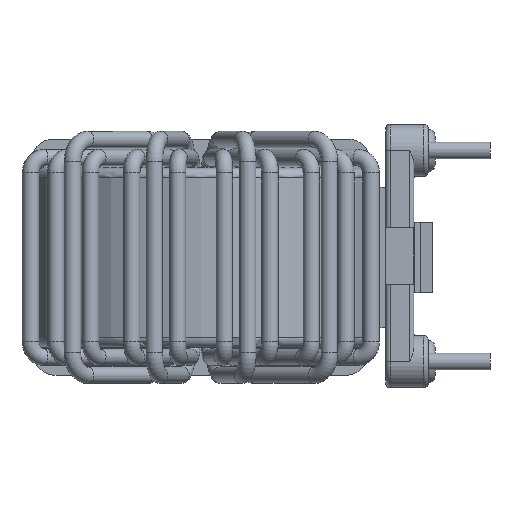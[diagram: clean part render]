
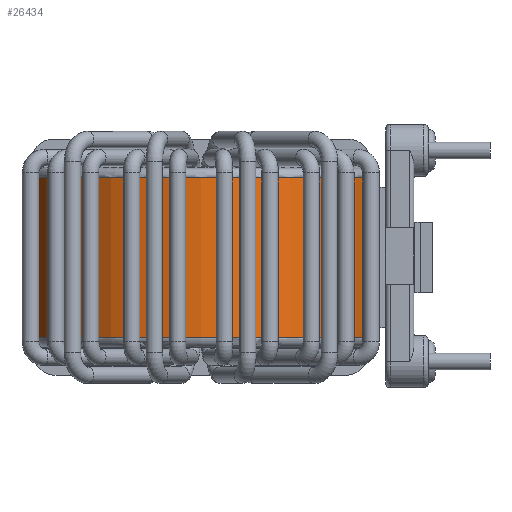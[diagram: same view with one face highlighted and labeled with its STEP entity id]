
A CAD part, left-side view. The second image highlights one B-rep face of the part: STEP entity #26434.
In plain terms, the highlighted cylindrical face has radius 12.7 mm (diameter 25.4 mm), a full revolution.
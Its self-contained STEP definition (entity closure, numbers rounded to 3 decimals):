
#1052=FACE_BOUND('',#4097,.T.);
#1053=FACE_BOUND('',#4098,.T.);
#2666=FACE_OUTER_BOUND('',#4096,.T.);
#4096=EDGE_LOOP('',(#18595,#18596,#18597,#18598,#18599));
#4097=EDGE_LOOP('',(#18600,#18601,#18602,#18603));
#4098=EDGE_LOOP('',(#18604,#18605,#18606,#18607));
#5490=LINE('',#39161,#7453);
#5499=LINE('',#39181,#7462);
#5508=LINE('',#39201,#7471);
#5515=LINE('',#39217,#7478);
#5516=LINE('',#39232,#7479);
#7453=VECTOR('',#31827,10.);
#7462=VECTOR('',#31844,10.);
#7471=VECTOR('',#31861,10.);
#7478=VECTOR('',#31876,10.);
#7479=VECTOR('',#31895,12.7);
#9875=CIRCLE('',#28578,12.7);
#9881=CIRCLE('',#28584,12.7);
#9882=CIRCLE('',#28586,12.7);
#9883=CIRCLE('',#28587,12.7);
#9884=CIRCLE('',#28588,12.7);
#9885=CIRCLE('',#28589,12.7);
#9886=CIRCLE('',#28590,12.7);
#10830=VERTEX_POINT('',#39154);
#10833=VERTEX_POINT('',#39159);
#10837=VERTEX_POINT('',#39174);
#10840=VERTEX_POINT('',#39179);
#10844=VERTEX_POINT('',#39194);
#10847=VERTEX_POINT('',#39199);
#10851=VERTEX_POINT('',#39213);
#10852=VERTEX_POINT('',#39215);
#10853=VERTEX_POINT('',#39219);
#10854=VERTEX_POINT('',#39220);
#10857=VERTEX_POINT('',#39231);
#13712=EDGE_CURVE('',#10833,#10830,#5490,.T.);
#13723=EDGE_CURVE('',#10840,#10837,#5499,.T.);
#13734=EDGE_CURVE('',#10847,#10844,#5508,.T.);
#13743=EDGE_CURVE('',#10852,#10851,#5515,.T.);
#13744=EDGE_CURVE('',#10853,#10854,#9875,.T.);
#13750=EDGE_CURVE('',#10854,#10853,#9881,.T.);
#13751=EDGE_CURVE('',#10853,#10857,#5516,.T.);
#13752=EDGE_CURVE('',#10857,#10857,#9882,.T.);
#13753=EDGE_CURVE('',#10833,#10844,#9883,.T.);
#13754=EDGE_CURVE('',#10847,#10830,#9884,.T.);
#13755=EDGE_CURVE('',#10840,#10851,#9885,.T.);
#13756=EDGE_CURVE('',#10852,#10837,#9886,.T.);
#18595=ORIENTED_EDGE('',*,*,#13744,.F.);
#18596=ORIENTED_EDGE('',*,*,#13751,.T.);
#18597=ORIENTED_EDGE('',*,*,#13752,.F.);
#18598=ORIENTED_EDGE('',*,*,#13751,.F.);
#18599=ORIENTED_EDGE('',*,*,#13750,.F.);
#18600=ORIENTED_EDGE('',*,*,#13753,.T.);
#18601=ORIENTED_EDGE('',*,*,#13734,.F.);
#18602=ORIENTED_EDGE('',*,*,#13754,.T.);
#18603=ORIENTED_EDGE('',*,*,#13712,.F.);
#18604=ORIENTED_EDGE('',*,*,#13755,.T.);
#18605=ORIENTED_EDGE('',*,*,#13743,.F.);
#18606=ORIENTED_EDGE('',*,*,#13756,.T.);
#18607=ORIENTED_EDGE('',*,*,#13723,.F.);
#24554=CYLINDRICAL_SURFACE('',#28585,12.7);
#26434=ADVANCED_FACE('',(#2666,#1052,#1053),#24554,.T.);
#28578=AXIS2_PLACEMENT_3D('',#39221,#31879,#31880);
#28584=AXIS2_PLACEMENT_3D('',#39229,#31891,#31892);
#28585=AXIS2_PLACEMENT_3D('',#39230,#31893,#31894);
#28586=AXIS2_PLACEMENT_3D('',#39233,#31896,#31897);
#28587=AXIS2_PLACEMENT_3D('',#39234,#31898,#31899);
#28588=AXIS2_PLACEMENT_3D('',#39235,#31900,#31901);
#28589=AXIS2_PLACEMENT_3D('',#39236,#31902,#31903);
#28590=AXIS2_PLACEMENT_3D('',#39237,#31904,#31905);
#31827=DIRECTION('',(0.,0.,-1.));
#31844=DIRECTION('',(0.,0.,1.));
#31861=DIRECTION('',(0.,0.,1.));
#31876=DIRECTION('',(0.,0.,-1.));
#31879=DIRECTION('center_axis',(0.,0.,
1.));
#31880=DIRECTION('ref_axis',(1.,0.,0.));
#31891=DIRECTION('center_axis',(0.,0.,
1.));
#31892=DIRECTION('ref_axis',(1.,0.,0.));
#31893=DIRECTION('center_axis',(0.,0.,
1.));
#31894=DIRECTION('ref_axis',(1.,0.,0.));
#31895=DIRECTION('',(0.,0.,-1.));
#31896=DIRECTION('center_axis',(0.,0.,
-1.));
#31897=DIRECTION('ref_axis',(1.,0.,0.));
#31898=DIRECTION('center_axis',(0.,0.,
1.));
#31899=DIRECTION('ref_axis',(1.,0.,0.));
#31900=DIRECTION('center_axis',(0.,0.,
-1.));
#31901=DIRECTION('ref_axis',(1.,0.,0.));
#31902=DIRECTION('center_axis',(0.,0.,
-1.));
#31903=DIRECTION('ref_axis',(1.,0.,0.));
#31904=DIRECTION('center_axis',(0.,0.,
1.));
#31905=DIRECTION('ref_axis',(1.,0.,0.));
#39154=CARTESIAN_POINT('',(2.886,2.782,-5.1));
#39159=CARTESIAN_POINT('',(2.886,2.782,4.9));
#39161=CARTESIAN_POINT('',(2.886,2.782,-5.3));
#39174=CARTESIAN_POINT('',(-2.886,2.782,4.9));
#39179=CARTESIAN_POINT('',(-2.886,2.782,-5.1));
#39181=CARTESIAN_POINT('',(-2.886,2.782,-5.3));
#39194=CARTESIAN_POINT('',(4.811,3.396,4.9));
#39199=CARTESIAN_POINT('',(4.811,3.396,-5.1));
#39201=CARTESIAN_POINT('',(4.811,3.396,-5.3));
#39213=CARTESIAN_POINT('',(-4.811,3.396,-5.1));
#39215=CARTESIAN_POINT('',(-4.811,3.396,4.9));
#39217=CARTESIAN_POINT('',(-4.811,3.396,-5.3));
#39219=CARTESIAN_POINT('',(-12.7,15.15,5.6));
#39220=CARTESIAN_POINT('',(12.7,15.15,5.6));
#39221=CARTESIAN_POINT('Origin',(0.,15.15,5.6));
#39229=CARTESIAN_POINT('Origin',(0.,15.15,5.6));
#39230=CARTESIAN_POINT('Origin',(0.,15.15,-5.3));
#39231=CARTESIAN_POINT('',(-12.7,15.15,-5.8));
#39232=CARTESIAN_POINT('',(-12.7,15.15,-5.3));
#39233=CARTESIAN_POINT('Origin',(0.,15.15,-5.8));
#39234=CARTESIAN_POINT('Origin',(0.,15.15,4.9));
#39235=CARTESIAN_POINT('Origin',(0.,15.15,-5.1));
#39236=CARTESIAN_POINT('Origin',(0.,15.15,-5.1));
#39237=CARTESIAN_POINT('Origin',(0.,15.15,4.9));
